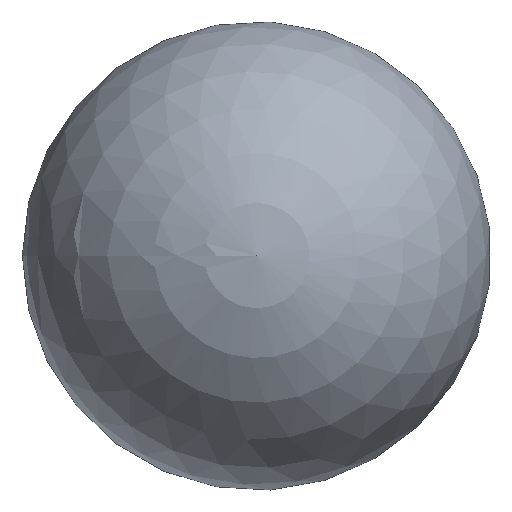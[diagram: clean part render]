
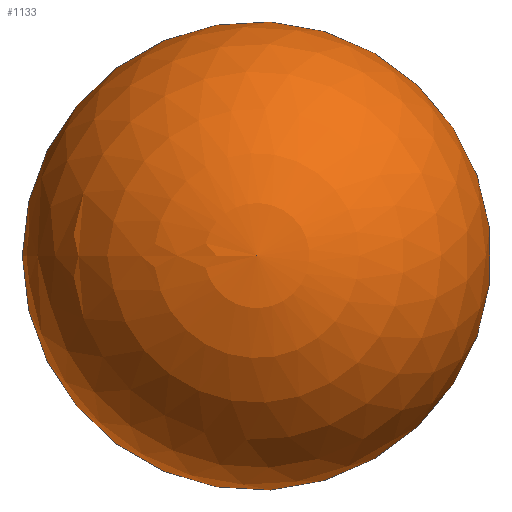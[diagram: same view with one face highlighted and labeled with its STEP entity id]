
A CAD part, top view. The second image highlights one B-rep face of the part: STEP entity #1133.
In plain terms, the highlighted spherical face has radius 200 mm.
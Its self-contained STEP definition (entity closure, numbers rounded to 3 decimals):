
#20=SPHERICAL_SURFACE('',#1273,200.);
#130=FACE_OUTER_BOUND('',#197,.T.);
#197=EDGE_LOOP('',(#1024,#1025,#1026));
#248=CIRCLE('',#1272,40.);
#249=CIRCLE('',#1274,200.);
#533=VERTEX_POINT('',#1974);
#534=VERTEX_POINT('',#1978);
#697=EDGE_CURVE('',#533,#533,#248,.T.);
#698=EDGE_CURVE('',#534,#533,#249,.T.);
#1024=ORIENTED_EDGE('',*,*,#697,.T.);
#1025=ORIENTED_EDGE('',*,*,#698,.F.);
#1026=ORIENTED_EDGE('',*,*,#698,.T.);
#1133=ADVANCED_FACE('',(#130),#20,.T.);
#1272=AXIS2_PLACEMENT_3D('',#1976,#1593,#1594);
#1273=AXIS2_PLACEMENT_3D('',#1977,#1595,#1596);
#1274=AXIS2_PLACEMENT_3D('',#1979,#1597,#1598);
#1593=DIRECTION('center_axis',(0.,0.,1.));
#1594=DIRECTION('ref_axis',(1.,0.,0.));
#1595=DIRECTION('center_axis',(0.,0.,1.));
#1596=DIRECTION('ref_axis',(1.,0.,0.));
#1597=DIRECTION('center_axis',(0.,-1.,0.));
#1598=DIRECTION('ref_axis',(-1.,0.,0.));
#1974=CARTESIAN_POINT('',(-40.,0.,0.));
#1976=CARTESIAN_POINT('Origin',(0.,0.,0.));
#1977=CARTESIAN_POINT('Origin',(0.,0.,195.959));
#1978=CARTESIAN_POINT('',(0.,0.,395.959));
#1979=CARTESIAN_POINT('Origin',(0.,0.,195.959));
